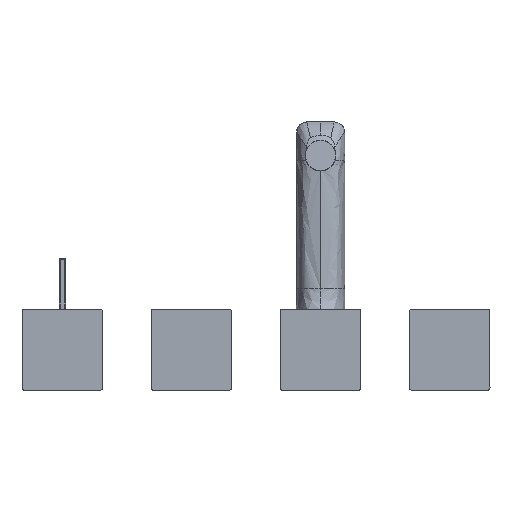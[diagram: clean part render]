
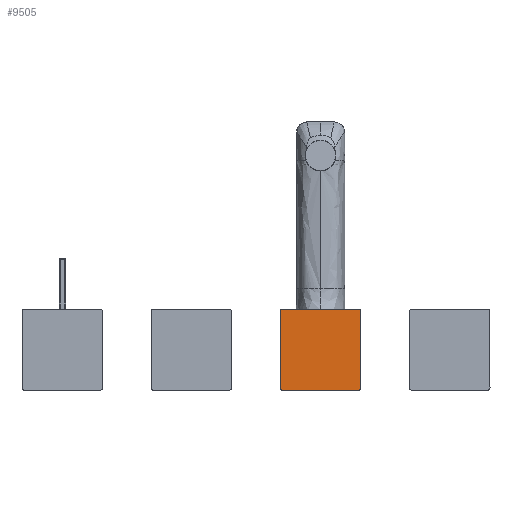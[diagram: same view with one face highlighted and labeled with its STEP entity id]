
A CAD part, front view. The second image highlights one B-rep face of the part: STEP entity #9505.
In plain terms, the highlighted planar face has unit normal (0, -1, 0).
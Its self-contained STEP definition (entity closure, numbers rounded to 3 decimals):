
#399 = CARTESIAN_POINT ( 'NONE',  ( 1964.65, 2627.52, 4078.946 ) ) ;
#1108 = VERTEX_POINT ( 'NONE', #18007 ) ;
#1397 = ORIENTED_EDGE ( 'NONE', *, *, #16377, .F. ) ;
#1409 = CARTESIAN_POINT ( 'NONE',  ( 1962.651, 2627.52, 4004.774 ) ) ;
#1605 = CARTESIAN_POINT ( 'NONE',  ( 1962.651, 2627.52, 4076.947 ) ) ;
#2072 = DIRECTION ( 'NONE',  ( 1., 0., 0. ) ) ;
#2813 = VERTEX_POINT ( 'NONE', #399 ) ;
#3074 = VECTOR ( 'NONE', #17372, 1000. ) ;
#3304 = ORIENTED_EDGE ( 'NONE', *, *, #7463, .F. ) ;
#3305 = CARTESIAN_POINT ( 'NONE',  ( 2037.651, 2627.52, 4005.945 ) ) ;
#3369 = CARTESIAN_POINT ( 'NONE',  ( 1962.651, 2627.52, 4076.947 ) ) ;
#3526 = ORIENTED_EDGE ( 'NONE', *, *, #9224, .T. ) ;
#3545 = ORIENTED_EDGE ( 'NONE', *, *, #17431, .F. ) ;
#3894 = CARTESIAN_POINT ( 'NONE',  ( 2000.151, 2627.52, 4041.446 ) ) ;
#4576 = ORIENTED_EDGE ( 'NONE', *, *, #23733, .F. ) ;
#5021 = CARTESIAN_POINT ( 'NONE',  ( 1963.478, 2627.52, 4003.946 ) ) ;
#5096 = CARTESIAN_POINT ( 'NONE',  ( 1964.65, 2627.52, 4078.946 ) ) ;
#5968 = CARTESIAN_POINT ( 'NONE',  ( 1962.651, 2627.52, 4005.945 ) ) ;
#7114 = DIRECTION ( 'NONE',  ( 0., 0., 1. ) ) ;
#7463 = EDGE_CURVE ( 'NONE', #23840, #1108, #20992, .T. ) ;
#7996 = FACE_OUTER_BOUND ( 'NONE', #14895, .T. ) ;
#8996 = VERTEX_POINT ( 'NONE', #5968 ) ;
#9104 = VERTEX_POINT ( 'NONE', #16657 ) ;
#9224 = EDGE_CURVE ( 'NONE', #20975, #12784, #24779, .T. ) ;
#9505 = ADVANCED_FACE ( 'NONE', ( #7996 ), #19617, .F. ) ;
#10521 = ORIENTED_EDGE ( 'NONE', *, *, #20208, .F. ) ;
#10795 = EDGE_CURVE ( 'NONE', #2813, #9104, #18427, .T. ) ;
#11142 = CARTESIAN_POINT ( 'NONE',  ( 2036.823, 2627.52, 4078.946 ) ) ;
#11413 = VECTOR ( 'NONE', #16619, 1000. ) ;
#12784 = VERTEX_POINT ( 'NONE', #14502 ) ;
#12964 = CARTESIAN_POINT ( 'NONE',  ( 1962.651, 2627.52, 4041.446 ) ) ;
#12966 = EDGE_CURVE ( 'NONE', #13489, #8996, #15018, .T. ) ;
#13167 = CARTESIAN_POINT ( 'NONE',  ( 2037.651, 2627.52, 4005.945 ) ) ;
#13455 = CARTESIAN_POINT ( 'NONE',  ( 2035.652, 2627.52, 4003.946 ) ) ;
#13489 = VERTEX_POINT ( 'NONE', #3369 ) ;
#14209 = VECTOR ( 'NONE', #20833, 1000. ) ;
#14502 = CARTESIAN_POINT ( 'NONE',  ( 2037.651, 2627.52, 4076.947 ) ) ;
#14812 = CARTESIAN_POINT ( 'NONE',  ( 2000.151, 2627.52, 4078.946 ) ) ;
#14895 = EDGE_LOOP ( 'NONE', ( #3545, #3304, #1397, #3526, #4576, #25084, #10521, #22800 ) ) ;
#15018 = LINE ( 'NONE', #12964, #14209 ) ;
#15191 =( BOUNDED_CURVE ( )  B_SPLINE_CURVE ( 3, ( #19254, #11142, #20459, #24929 ),
 .UNSPECIFIED., .F., .F. ) 
 B_SPLINE_CURVE_WITH_KNOTS ( ( 4, 4 ),
 ( 2.357, 3.926 ),
 .UNSPECIFIED. ) 
 CURVE ( )  GEOMETRIC_REPRESENTATION_ITEM ( )  RATIONAL_B_SPLINE_CURVE ( ( 1., 0.805, 0.805, 1. ) ) 
 REPRESENTATION_ITEM ( '' )  );
#15225 = CARTESIAN_POINT ( 'NONE',  ( 2036.823, 2627.52, 4003.946 ) ) ;
#15617 = DIRECTION ( 'NONE',  ( 0., 1., 0. ) ) ;
#16377 = EDGE_CURVE ( 'NONE', #20975, #23840, #19444, .T. ) ;
#16619 = DIRECTION ( 'NONE',  ( 1., 0., 0. ) ) ;
#16657 = CARTESIAN_POINT ( 'NONE',  ( 2035.652, 2627.52, 4078.946 ) ) ;
#17120 = CARTESIAN_POINT ( 'NONE',  ( 2000.151, 2627.52, 4003.946 ) ) ;
#17372 = DIRECTION ( 'NONE',  ( -1., 0., 0. ) ) ;
#17431 = EDGE_CURVE ( 'NONE', #1108, #8996, #22074, .T. ) ;
#18007 = CARTESIAN_POINT ( 'NONE',  ( 1964.65, 2627.52, 4003.946 ) ) ;
#18427 = LINE ( 'NONE', #14812, #11413 ) ;
#18853 = CARTESIAN_POINT ( 'NONE',  ( 2037.651, 2627.52, 4041.446 ) ) ;
#18940 = CARTESIAN_POINT ( 'NONE',  ( 1962.651, 2627.52, 4005.945 ) ) ;
#19254 = CARTESIAN_POINT ( 'NONE',  ( 2035.652, 2627.52, 4078.946 ) ) ;
#19267 = CARTESIAN_POINT ( 'NONE',  ( 1963.478, 2627.52, 4078.946 ) ) ;
#19444 =( BOUNDED_CURVE ( )  B_SPLINE_CURVE ( 3, ( #13167, #21031, #15225, #20645 ),
 .UNSPECIFIED., .F., .T. ) 
 B_SPLINE_CURVE_WITH_KNOTS ( ( 4, 4 ),
 ( 2.357, 3.926 ),
 .UNSPECIFIED. ) 
 CURVE ( )  GEOMETRIC_REPRESENTATION_ITEM ( )  RATIONAL_B_SPLINE_CURVE ( ( 1., 0.805, 0.805, 1. ) ) 
 REPRESENTATION_ITEM ( '' )  );
#19617 = PLANE ( 'NONE',  #25317 ) ;
#20208 = EDGE_CURVE ( 'NONE', #13489, #2813, #23907, .T. ) ;
#20459 = CARTESIAN_POINT ( 'NONE',  ( 2037.651, 2627.52, 4078.118 ) ) ;
#20645 = CARTESIAN_POINT ( 'NONE',  ( 2035.652, 2627.52, 4003.946 ) ) ;
#20697 = CARTESIAN_POINT ( 'NONE',  ( 1962.651, 2627.52, 4078.118 ) ) ;
#20833 = DIRECTION ( 'NONE',  ( 0., 0., -1. ) ) ;
#20975 = VERTEX_POINT ( 'NONE', #3305 ) ;
#20992 = LINE ( 'NONE', #17120, #3074 ) ;
#21031 = CARTESIAN_POINT ( 'NONE',  ( 2037.651, 2627.52, 4004.774 ) ) ;
#22074 =( BOUNDED_CURVE ( )  B_SPLINE_CURVE ( 3, ( #23063, #5021, #1409, #18940 ),
 .UNSPECIFIED., .F., .T. ) 
 B_SPLINE_CURVE_WITH_KNOTS ( ( 4, 4 ),
 ( 2.357, 3.926 ),
 .UNSPECIFIED. ) 
 CURVE ( )  GEOMETRIC_REPRESENTATION_ITEM ( )  RATIONAL_B_SPLINE_CURVE ( ( 1., 0.805, 0.805, 1. ) ) 
 REPRESENTATION_ITEM ( '' )  );
#22800 = ORIENTED_EDGE ( 'NONE', *, *, #12966, .T. ) ;
#23063 = CARTESIAN_POINT ( 'NONE',  ( 1964.65, 2627.52, 4003.946 ) ) ;
#23733 = EDGE_CURVE ( 'NONE', #9104, #12784, #15191, .T. ) ;
#23840 = VERTEX_POINT ( 'NONE', #13455 ) ;
#23907 =( BOUNDED_CURVE ( )  B_SPLINE_CURVE ( 3, ( #1605, #20697, #19267, #5096 ),
 .UNSPECIFIED., .F., .T. ) 
 B_SPLINE_CURVE_WITH_KNOTS ( ( 4, 4 ),
 ( 2.357, 3.926 ),
 .UNSPECIFIED. ) 
 CURVE ( )  GEOMETRIC_REPRESENTATION_ITEM ( )  RATIONAL_B_SPLINE_CURVE ( ( 1., 0.805, 0.805, 1. ) ) 
 REPRESENTATION_ITEM ( '' )  );
#24073 = VECTOR ( 'NONE', #7114, 1000. ) ;
#24779 = LINE ( 'NONE', #18853, #24073 ) ;
#24929 = CARTESIAN_POINT ( 'NONE',  ( 2037.651, 2627.52, 4076.947 ) ) ;
#25084 = ORIENTED_EDGE ( 'NONE', *, *, #10795, .F. ) ;
#25317 = AXIS2_PLACEMENT_3D ( 'NONE', #3894, #15617, #2072 ) ;
